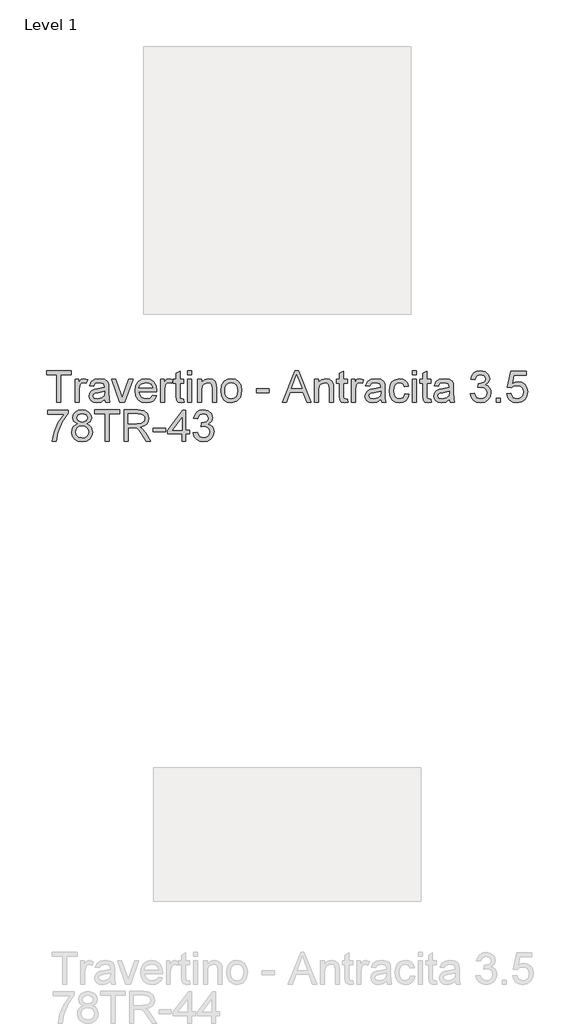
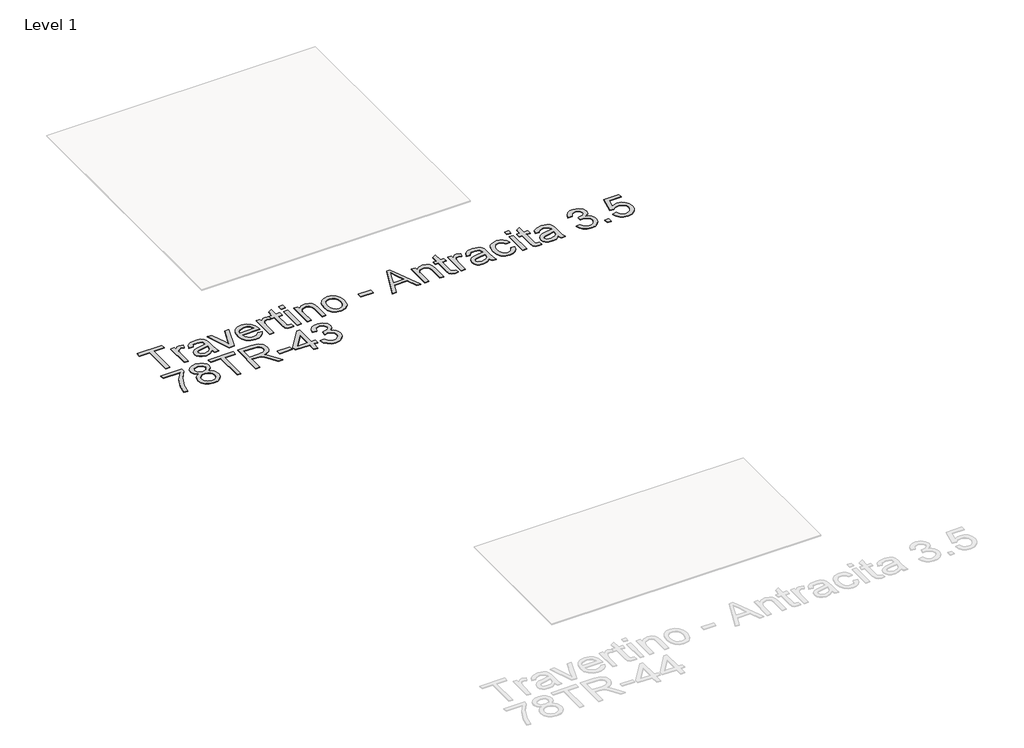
# One storey, part 12 of 80: 1 proxy.
"""IFC4 building model written with IfcOpenShell, lengths in millimetres."""

import ifcopenshell
import ifcopenshell.guid

model = None  # the IFC model being written
_history = None  # IfcOwnerHistory: only IFC2X3 demands one
_inside = {}  # id of a spatial element -> (the spatial element, [elements in it])
_under = {}  # id of a project, library or spatial element -> (it, [spatial elements below it])
_declared = {}  # id of a project -> (the project, [libraries it declares])
_typed = {}  # id of a type object -> (the type object, [elements of that type])
_made_of = {}  # id of a material, layer set ... -> (it, [elements and type objects made of it])


def new_model(schema):
    """Start an empty IFC model of exactly this schema.

    Asked for "IFC4X3", IfcOpenShell would pick the latest addendum, in which some entities
    have other attributes; the version numbers below select the first issue.
    IFC2X3 requires an IfcOwnerHistory on every rooted entity: one is made here for all.
    """
    global model, _history
    if schema == "IFC4X3":
        model = ifcopenshell.file(schema_version=(4, 3, 0, 0))
    else:
        model = ifcopenshell.file(schema=schema)
    _inside.clear()
    _under.clear()
    _declared.clear()
    _typed.clear()
    _made_of.clear()
    _history = None
    if model.schema == "IFC2X3":
        org = make("IfcOrganization", Name="unknown")
        user = make(
            "IfcPersonAndOrganization",
            ThePerson=make("IfcPerson", FamilyName="unknown"),
            TheOrganization=org,
        )
        app = make(
            "IfcApplication",
            ApplicationDeveloper=org,
            Version="unknown",
            ApplicationFullName="unknown",
            ApplicationIdentifier="unknown",
        )
        _history = make(
            "IfcOwnerHistory",
            OwningUser=user,
            OwningApplication=app,
            ChangeAction="ADDED",
            CreationDate=0,
        )
    return model


def make(cls, **values):
    """One entity of the class cls with the attributes given. An attribute that is None is left unset."""
    return model.create_entity(
        cls, **{name: value for name, value in values.items() if value is not None}
    )


def rooted(cls, **values):
    """An entity with a GlobalId (a new one), such as an element, a storey or a relation."""
    return make(cls, GlobalId=ifcopenshell.guid.new(), OwnerHistory=_history, **values)


def si_unit(unit_type, name, prefix=None):
    """IfcSIUnit, for example si_unit("LENGTHUNIT", "METRE", prefix="MILLI")."""
    return make("IfcSIUnit", UnitType=unit_type, Prefix=prefix, Name=name)


def assignment(units):
    """IfcUnitAssignment: the units of a project."""
    return None if units is None else make("IfcUnitAssignment", Units=units)


def point(xyz):
    """IfcCartesianPoint."""
    return None if xyz is None else make("IfcCartesianPoint", Coordinates=xyz)


def direction(xyz):
    """IfcDirection."""
    return None if xyz is None else make("IfcDirection", DirectionRatios=xyz)


def frame(location, z_axis=None, x_axis=None):
    """IfcAxis2Placement3D, a coordinate frame: its origin and axes. An axis left out is left unset."""
    return make(
        "IfcAxis2Placement3D",
        Location=point(location),
        Axis=direction(z_axis),
        RefDirection=direction(x_axis),
    )


def origin():
    """The frame at (0, 0, 0) with its axes left unset."""
    return frame((0.0, 0.0, 0.0))


def origin_with_axes():
    """The frame at (0, 0, 0) with the z axis (0, 0, 1) and the x axis (1, 0, 0) written out."""
    return frame((0.0, 0.0, 0.0), z_axis=(0.0, 0.0, 1.0), x_axis=(1.0, 0.0, 0.0))


def place(relative_to, where):
    """IfcLocalPlacement: puts the frame where relative to a parent placement (None: the world)."""
    return make(
        "IfcLocalPlacement", PlacementRelTo=relative_to, RelativePlacement=where
    )


def context(
    kind, dimensions, precision=None, world=None, true_north=None, identifier=None
):
    """IfcGeometricRepresentationContext, for example the 3D "Model" context."""
    return make(
        "IfcGeometricRepresentationContext",
        ContextIdentifier=identifier,
        ContextType=kind,
        CoordinateSpaceDimension=dimensions,
        Precision=precision,
        WorldCoordinateSystem=world,
        TrueNorth=true_north,
    )


def project(units=None, contexts=None):
    """IfcProject with its units and contexts."""
    return rooted(
        "IfcProject",
        Name="project",
        RepresentationContexts=contexts,
        UnitsInContext=assignment(units),
    )


def spatial(cls, under=None, at=None, **own):
    """A site, building, storey or space (cls), placed at a placement, below another one or the project."""
    s = rooted(cls, ObjectPlacement=at, **own)
    if under is not None:
        _under.setdefault(under.id(), (under, []))[1].append(s)
    return s


def polyline(points):
    """IfcPolyline through the points."""
    return make("IfcPolyline", Points=[point(p) for p in points])


def outline(outer, holes=None, kind="AREA"):
    """IfcArbitraryClosedProfileDef: a profile drawn as a closed curve; with holes, ...WithVoids."""
    if holes is None:
        return make("IfcArbitraryClosedProfileDef", ProfileType=kind, OuterCurve=outer)
    return make(
        "IfcArbitraryProfileDefWithVoids",
        ProfileType=kind,
        OuterCurve=outer,
        InnerCurves=holes,
    )


def extrude(swept, where, along, depth):
    """IfcExtrudedAreaSolid: the profile swept, set in the frame where, extruded along a direction by depth."""
    return make(
        "IfcExtrudedAreaSolid",
        SweptArea=swept,
        Position=where,
        ExtrudedDirection=direction(along),
        Depth=depth,
    )


def shape(context_of_items, identifier, shape_type, items):
    """IfcShapeRepresentation: the items that make up one representation, for example the "Body"."""
    return make(
        "IfcShapeRepresentation",
        ContextOfItems=context_of_items,
        RepresentationIdentifier=identifier,
        RepresentationType=shape_type,
        Items=items,
    )


def made_of(thing, what):
    """Note that an element or type object is made of a material, layer set ...; save() writes the relation."""
    if what is not None:
        _made_of.setdefault(what.id(), (what, []))[1].append(thing)
    return thing


def element(
    cls,
    number,
    at=None,
    inside=None,
    cuts=None,
    type_object=None,
    material=None,
    context=None,
    identifier="Body",
    shape_type=None,
    held_by="IfcProductDefinitionShape",
    body=None,
    shapes=None,
    **own,
):
    """One element of the class cls, such as IfcWall. Its Tag is "e" and its number.

    at: its placement. inside: the storey or other place that contains it. cuts: it is an
    opening in that element (IfcRelVoidsElement). A single representation is given by context,
    identifier, shape_type and body (its items); several are given by shapes. held_by: the class
    of the entity that holds the representations. save() writes the other relations.
    """
    e = rooted(cls, Tag="e%d" % number, ObjectPlacement=at, **own)
    if body is not None:
        shapes = [shape(context, identifier, shape_type, body)]
    if shapes is not None:
        e.Representation = make(held_by, Representations=shapes)
    if inside is not None:
        _inside.setdefault(inside.id(), (inside, []))[1].append(e)
    if cuts is not None:
        rooted(
            "IfcRelVoidsElement", RelatingBuildingElement=cuts, RelatedOpeningElement=e
        )
    if type_object is not None:
        _typed.setdefault(type_object.id(), (type_object, []))[1].append(e)
    return made_of(e, material)


def aggregate(whole, parts):
    """IfcRelAggregates: a whole, such as a stair, and the parts it consists of."""
    return rooted("IfcRelAggregates", RelatingObject=whole, RelatedObjects=parts)


def save(model, path):
    """Write the relations noted so far, then the file.

    IfcRelAggregates (storeys below a building ...), IfcRelContainedInSpatialStructure (elements
    in a storey), IfcRelDefinesByType, IfcRelAssociatesMaterial and IfcRelDeclares: one each for
    every whole, place, type object, material and project.
    """
    for whole, parts in _under.values():
        aggregate(whole, parts)
    for where, things in _inside.values():
        rooted(
            "IfcRelContainedInSpatialStructure",
            RelatedElements=things,
            RelatingStructure=where,
        )
    for kind, things in _typed.values():
        rooted("IfcRelDefinesByType", RelatedObjects=things, RelatingType=kind)
    for what, things in _made_of.values():
        rooted("IfcRelAssociatesMaterial", RelatedObjects=things, RelatingMaterial=what)
    for by, libraries in _declared.values():
        rooted("IfcRelDeclares", RelatingContext=by, RelatedDefinitions=libraries)
    model.write(path)


model = new_model("IFC4")

# Units and contexts
model_context = context("Model", 3, world=origin())
ifc_project = project(units=[si_unit("LENGTHUNIT", "METRE", prefix="MILLI")], contexts=[model_context])

# Site, building, storey
site = spatial("IfcSite", under=ifc_project)
building = spatial("IfcBuilding", under=site)
storey = spatial("IfcBuildingStorey", under=building, Name="Level 1", Elevation=0.0)

# Proxy
placement = place(None, origin())
element("IfcBuildingElementProxy", 1, Name="24\" Arial", ObjectType="24\" Arial", at=placement, inside=storey, context=model_context, shape_type="SweptSolid", body=[
    extrude(outline(polyline([(-27306.7684156, -10335.3931631), (-27306.7684156, -10232.0085477), (-27345.5376464, -10232.0085477), (-27345.5376464, -10217.239317), (-27253.2299541, -10217.239317), (-27253.2299541, -10232.0085477), (-27291.9991848, -10232.0085477), (-27291.9991848, -10335.3931631), (-27306.7684156, -10335.3931631)])), origin_with_axes(), (0.0, 0.0, 1.0), 2.0),
    extrude(outline(polyline([(-27238.4607233, -10335.3931631), (-27238.4607233, -10248.6239323), (-27225.5376464, -10248.6239323), (-27225.5376464, -10261.4604708), (-27216.3645694, -10249.6335477), (-27207.1338002, -10246.7777785), (-27192.3068771, -10251.3354708), (-27197.2395694, -10264.5758554), (-27207.6241848, -10261.5470093), (-27215.9751464, -10264.4604708), (-27221.2972617, -10272.5373939), (-27223.6914925, -10289.7873939), (-27223.6914925, -10335.3931631), (-27238.4607233, -10335.3931631)])), origin_with_axes(), (0.0, 0.0, 1.0), 2.0),
    extrude(outline(polyline([(-27127.6914925, -10324.31624), (-27142.0136079, -10334.3258554), (-27157.8357233, -10337.239317), (-27170.1782714, -10335.4869131), (-27179.2828387, -10330.2297016), (-27184.8970214, -10322.2465285), (-27186.7684156, -10312.31624), (-27183.9414925, -10300.6335477), (-27176.5136079, -10292.1527785), (-27166.1722617, -10287.3066247), (-27153.3934156, -10285.0854708), (-27127.778031, -10280.0085477), (-27127.6914925, -10276.7200862), (-27131.7588002, -10265.81624), (-27148.0857233, -10261.5470093), (-27163.028031, -10264.3883554), (-27170.153031, -10274.4700862), (-27184.9222617, -10272.6239323), (-27178.5328387, -10258.2008554), (-27165.6674541, -10249.7489323), (-27146.1818771, -10246.7777785), (-27128.2828387, -10249.4027785), (-27118.1722617, -10255.9941247), (-27113.6434156, -10266.0181631), (-27112.9222617, -10278.94124), (-27112.9222617, -10297.31624), (-27112.1722617, -10322.9748939), (-27109.2299541, -10335.3931631), (-27123.9991848, -10335.3931631), (-27127.6914925, -10324.31624)]), holes=[polyline([(-27127.6914925, -10294.7777785), (-27151.5184156, -10299.3066247), (-27164.2251464, -10301.7008554), (-27169.9799541, -10305.5950862), (-27171.9991848, -10311.2777785), (-27167.6001464, -10319.2681631), (-27154.6914925, -10322.4700862), (-27139.7491848, -10318.9364323), (-27130.1145694, -10310.3835477), (-27127.778031, -10298.9604708), (-27127.6914925, -10294.7777785)])]), origin_with_axes(), (0.0, 0.0, 1.0), 2.0),
    extrude(outline(polyline([(-27071.3261079, -10335.3931631), (-27101.8453387, -10248.6239323), (-27086.2107233, -10248.6239323), (-27067.7203387, -10300.6047016), (-27062.153031, -10318.0854708), (-27056.7011079, -10301.5854708), (-27038.0953387, -10248.6239323), (-27022.4607233, -10248.6239323), (-27052.6049541, -10335.3931631), (-27071.3261079, -10335.3931631)])), origin_with_axes(), (0.0, 0.0, 1.0), 2.0),
    extrude(outline(polyline([(-26948.7876464, -10309.5470093), (-26934.3068771, -10311.3931631), (-26939.5244252, -10322.3042208), (-26947.8501464, -10330.4604708), (-26959.0965406, -10335.5446054), (-26973.0761079, -10337.239317), (-26990.4054348, -10334.3150381), (-27003.7395694, -10325.5422016), (-27012.2419733, -10311.4905189), (-27015.0761079, -10292.7297016), (-27012.2131271, -10273.3378747), (-27003.6241848, -10258.8354708), (-26990.4703387, -10249.7922016), (-26973.9126464, -10246.7777785), (-26957.8705791, -10249.78499), (-26945.0520694, -10258.8066247), (-26936.6470214, -10273.2801823), (-26933.8453387, -10292.6431631), (-26933.9318771, -10296.6239323), (-27000.3068771, -10296.6239323), (-26997.7503867, -10307.6792208), (-26991.8116848, -10315.8066247), (-26983.2407714, -10320.8042208), (-26972.7876464, -10322.4700862), (-26958.3068771, -10319.3835477), (-26948.7876464, -10309.5470093)]), holes=[polyline([(-27000.3068771, -10281.8547016), (-26948.6145694, -10281.8547016), (-26954.528031, -10268.4700862), (-26963.1386079, -10263.2777785), (-26973.9703387, -10261.5470093), (-26992.1578387, -10267.0710477), (-26997.8801944, -10273.5289804), (-27000.3068771, -10281.8547016)])]), origin_with_axes(), (0.0, 0.0, 1.0), 2.0),
    extrude(outline(polyline([(-26919.0761079, -10335.3931631), (-26919.0761079, -10248.6239323), (-26906.153031, -10248.6239323), (-26906.153031, -10261.4604708), (-26896.9799541, -10249.6335477), (-26887.7491848, -10246.7777785), (-26872.9222617, -10251.3354708), (-26877.8549541, -10264.5758554), (-26888.2395694, -10261.5470093), (-26896.590531, -10264.4604708), (-26901.9126464, -10272.5373939), (-26904.3068771, -10289.7873939), (-26904.3068771, -10335.3931631), (-26919.0761079, -10335.3931631)])), origin_with_axes(), (0.0, 0.0, 1.0), 2.0),
    extrude(outline(polyline([(-26832.3068771, -10323.0758554), (-26830.4607233, -10335.8258554), (-26841.5088002, -10337.239317), (-26853.8838002, -10334.7873939), (-26860.0568771, -10328.3547016), (-26861.8453387, -10311.5950862), (-26861.8453387, -10263.3931631), (-26872.9222617, -10263.3931631), (-26872.9222617, -10248.6239323), (-26861.8453387, -10248.6239323), (-26861.8453387, -10227.5373939), (-26847.0761079, -10218.8547016), (-26847.0761079, -10248.6239323), (-26832.3068771, -10248.6239323), (-26832.3068771, -10263.3931631), (-26847.0761079, -10263.3931631), (-26847.0761079, -10311.1623939), (-26846.2972617, -10318.7777785), (-26843.7732233, -10321.4748939), (-26838.7395694, -10322.4700862), (-26832.3068771, -10323.0758554)])), origin_with_axes(), (0.0, 0.0, 1.0), 2.0),
    extrude(outline(polyline([(-26817.5376464, -10232.0085477), (-26817.5376464, -10217.239317), (-26802.7684156, -10217.239317), (-26802.7684156, -10232.0085477), (-26817.5376464, -10232.0085477)])), origin_with_axes(), (0.0, 0.0, 1.0), 2.0),
    extrude(outline(polyline([(-26817.5376464, -10335.3931631), (-26817.5376464, -10248.6239323), (-26802.7684156, -10248.6239323), (-26802.7684156, -10335.3931631), (-26817.5376464, -10335.3931631)])), origin_with_axes(), (0.0, 0.0, 1.0), 2.0),
    extrude(outline(polyline([(-26780.6145694, -10335.3931631), (-26780.6145694, -10248.6239323), (-26765.8453387, -10248.6239323), (-26765.8453387, -10260.739317), (-26754.5520694, -10250.2681631), (-26739.1338002, -10246.7777785), (-26725.1866848, -10249.5902785), (-26715.6674541, -10256.9748939), (-26711.2395694, -10267.8354708), (-26710.4607233, -10282.114317), (-26710.4607233, -10335.3931631), (-26725.2299541, -10335.3931631), (-26725.2299541, -10284.1047016), (-26726.9318771, -10271.0373939), (-26732.9463002, -10264.12874), (-26743.0857233, -10261.5470093), (-26759.1097617, -10267.3450862), (-26764.1614444, -10275.7465285), (-26765.8453387, -10289.3547016), (-26765.8453387, -10335.3931631), (-26780.6145694, -10335.3931631)])), origin_with_axes(), (0.0, 0.0, 1.0), 2.0),
    extrude(outline(polyline([(-26693.8453387, -10292.0085477), (-26690.6506271, -10271.0878747), (-26681.0664925, -10256.3835477), (-26669.2251464, -10249.1792208), (-26655.0472617, -10246.7777785), (-26639.5316367, -10249.7020573), (-26627.1386079, -10258.4748939), (-26619.0148098, -10272.4039804), (-26616.3068771, -10290.7970093), (-26621.0953387, -10317.0758554), (-26635.0424541, -10331.9460477), (-26655.0472617, -10337.239317), (-26670.7503867, -10334.3258554), (-26683.1289925, -10325.5854708), (-26691.1662521, -10311.364317), (-26693.8453387, -10292.0085477)]), holes=[polyline([(-26679.0761079, -10291.9797016), (-26677.3669733, -10305.3462881), (-26672.2395694, -10314.8691247), (-26664.5232233, -10320.5698458), (-26655.0472617, -10322.4700862), (-26645.6145694, -10320.5590285), (-26637.9126464, -10314.8258554), (-26632.7852425, -10305.176817), (-26631.0761079, -10291.5181631), (-26632.7960598, -10278.5409997), (-26637.9559156, -10269.1479708), (-26645.668656, -10263.4472497), (-26655.0472617, -10261.5470093), (-26664.5232233, -10263.4400381), (-26672.2395694, -10269.1191247), (-26677.3669733, -10278.6203266), (-26679.0761079, -10291.9797016)])]), origin_with_axes(), (0.0, 0.0, 1.0), 2.0),
    extrude(outline(polyline([(-26560.9222617, -10300.31624), (-26560.9222617, -10285.5470093), (-26514.7684156, -10285.5470093), (-26514.7684156, -10300.31624), (-26560.9222617, -10300.31624)])), origin_with_axes(), (0.0, 0.0, 1.0), 2.0),
    extrude(outline(polyline([(-26463.9126464, -10335.3931631), (-26416.7491848, -10217.239317), (-26404.1722617, -10217.239317), (-26357.0088002, -10335.3931631), (-26372.6145694, -10335.3931631), (-26386.1434156, -10298.4700862), (-26434.8068771, -10298.4700862), (-26448.3068771, -10335.3931631), (-26463.9126464, -10335.3931631)]), holes=[polyline([(-26429.3838002, -10283.7008554), (-26391.5376464, -10283.7008554), (-26402.1818771, -10254.6527785), (-26410.4607233, -10232.0085477), (-26417.8164925, -10252.114317), (-26429.3838002, -10283.7008554)])]), origin_with_axes(), (0.0, 0.0, 1.0), 2.0),
    extrude(outline(polyline([(-26343.0761079, -10335.3931631), (-26343.0761079, -10248.6239323), (-26328.3068771, -10248.6239323), (-26328.3068771, -10260.739317), (-26317.0136079, -10250.2681631), (-26301.5953387, -10246.7777785), (-26287.6482233, -10249.5902785), (-26278.1289925, -10256.9748939), (-26273.7011079, -10267.8354708), (-26272.9222617, -10282.114317), (-26272.9222617, -10335.3931631), (-26287.6914925, -10335.3931631), (-26287.6914925, -10284.1047016), (-26289.3934156, -10271.0373939), (-26295.4078387, -10264.12874), (-26305.5472617, -10261.5470093), (-26321.5713002, -10267.3450862), (-26326.6229829, -10275.7465285), (-26328.3068771, -10289.3547016), (-26328.3068771, -10335.3931631), (-26343.0761079, -10335.3931631)])), origin_with_axes(), (0.0, 0.0, 1.0), 2.0),
    extrude(outline(polyline([(-26221.2299541, -10323.0758554), (-26219.3838002, -10335.8258554), (-26230.4318771, -10337.239317), (-26242.8068771, -10334.7873939), (-26248.9799541, -10328.3547016), (-26250.7684156, -10311.5950862), (-26250.7684156, -10263.3931631), (-26261.8453387, -10263.3931631), (-26261.8453387, -10248.6239323), (-26250.7684156, -10248.6239323), (-26250.7684156, -10227.5373939), (-26235.9991848, -10218.8547016), (-26235.9991848, -10248.6239323), (-26221.2299541, -10248.6239323), (-26221.2299541, -10263.3931631), (-26235.9991848, -10263.3931631), (-26235.9991848, -10311.1623939), (-26235.2203387, -10318.7777785), (-26232.6963002, -10321.4748939), (-26227.6626464, -10322.4700862), (-26221.2299541, -10323.0758554)])), origin_with_axes(), (0.0, 0.0, 1.0), 2.0),
    extrude(outline(polyline([(-26206.4607233, -10335.3931631), (-26206.4607233, -10248.6239323), (-26193.5376464, -10248.6239323), (-26193.5376464, -10261.4604708), (-26184.3645694, -10249.6335477), (-26175.1338002, -10246.7777785), (-26160.3068771, -10251.3354708), (-26165.2395694, -10264.5758554), (-26175.6241848, -10261.5470093), (-26183.9751464, -10264.4604708), (-26189.2972617, -10272.5373939), (-26191.6914925, -10289.7873939), (-26191.6914925, -10335.3931631), (-26206.4607233, -10335.3931631)])), origin_with_axes(), (0.0, 0.0, 1.0), 2.0),
    extrude(outline(polyline([(-26095.6914925, -10324.31624), (-26110.0136079, -10334.3258554), (-26125.8357233, -10337.239317), (-26138.1782714, -10335.4869131), (-26147.2828387, -10330.2297016), (-26152.8970214, -10322.2465285), (-26154.7684156, -10312.31624), (-26151.9414925, -10300.6335477), (-26144.5136079, -10292.1527785), (-26134.1722617, -10287.3066247), (-26121.3934156, -10285.0854708), (-26095.778031, -10280.0085477), (-26095.6914925, -10276.7200862), (-26099.7588002, -10265.81624), (-26116.0857233, -10261.5470093), (-26131.028031, -10264.3883554), (-26138.153031, -10274.4700862), (-26152.9222617, -10272.6239323), (-26146.5328387, -10258.2008554), (-26133.6674541, -10249.7489323), (-26114.1818771, -10246.7777785), (-26096.2828387, -10249.4027785), (-26086.1722617, -10255.9941247), (-26081.6434156, -10266.0181631), (-26080.9222617, -10278.94124), (-26080.9222617, -10297.31624), (-26080.1722617, -10322.9748939), (-26077.2299541, -10335.3931631), (-26091.9991848, -10335.3931631), (-26095.6914925, -10324.31624)]), holes=[polyline([(-26095.6914925, -10294.7777785), (-26119.5184156, -10299.3066247), (-26132.2251464, -10301.7008554), (-26137.9799541, -10305.5950862), (-26139.9991848, -10311.2777785), (-26135.6001464, -10319.2681631), (-26122.6914925, -10322.4700862), (-26107.7491848, -10318.9364323), (-26098.1145694, -10310.3835477), (-26095.778031, -10298.9604708), (-26095.6914925, -10294.7777785)])]), origin_with_axes(), (0.0, 0.0, 1.0), 2.0),
    extrude(outline(polyline([(-26005.2299541, -10304.0085477), (-25990.4607233, -10305.8547016), (-25994.5785117, -10318.9905189), (-26002.3164925, -10328.9172016), (-26012.9463002, -10335.1587881), (-26025.7395694, -10337.239317), (-26041.449906, -10334.3366727), (-26053.7347617, -10325.62874), (-26061.6638483, -10311.4977304), (-26064.3068771, -10292.3258554), (-26059.7924541, -10267.7922016), (-26054.0953387, -10258.5938843), (-26046.0328387, -10252.0277785), (-26025.9414925, -10246.7777785), (-26013.4619252, -10248.5806631), (-26003.4847617, -10253.989317), (-25996.3273098, -10262.7152785), (-25992.3068771, -10274.4700862), (-26007.0761079, -10276.31624), (-26013.9270694, -10265.25374), (-26025.8261079, -10261.5470093), (-26035.3705791, -10263.3715285), (-26042.9463002, -10268.8450862), (-26047.8898098, -10278.2633554), (-26049.5376464, -10291.9220093), (-26047.9258675, -10305.7645573), (-26043.090531, -10315.2152785), (-26035.6518291, -10320.6563843), (-26026.2299541, -10322.4700862), (-26012.3116848, -10317.94124), (-26005.2299541, -10304.0085477)])), origin_with_axes(), (0.0, 0.0, 1.0), 2.0),
    extrude(outline(polyline([(-25977.5376464, -10232.0085477), (-25977.5376464, -10217.239317), (-25962.7684156, -10217.239317), (-25962.7684156, -10232.0085477), (-25977.5376464, -10232.0085477)])), origin_with_axes(), (0.0, 0.0, 1.0), 2.0),
    extrude(outline(polyline([(-25977.5376464, -10335.3931631), (-25977.5376464, -10248.6239323), (-25962.7684156, -10248.6239323), (-25962.7684156, -10335.3931631), (-25977.5376464, -10335.3931631)])), origin_with_axes(), (0.0, 0.0, 1.0), 2.0),
    extrude(outline(polyline([(-25909.2299541, -10323.0758554), (-25907.3838002, -10335.8258554), (-25918.4318771, -10337.239317), (-25930.8068771, -10334.7873939), (-25936.9799541, -10328.3547016), (-25938.7684156, -10311.5950862), (-25938.7684156, -10263.3931631), (-25949.8453387, -10263.3931631), (-25949.8453387, -10248.6239323), (-25938.7684156, -10248.6239323), (-25938.7684156, -10227.5373939), (-25923.9991848, -10218.8547016), (-25923.9991848, -10248.6239323), (-25909.2299541, -10248.6239323), (-25909.2299541, -10263.3931631), (-25923.9991848, -10263.3931631), (-25923.9991848, -10311.1623939), (-25923.2203387, -10318.7777785), (-25920.6963002, -10321.4748939), (-25915.6626464, -10322.4700862), (-25909.2299541, -10323.0758554)])), origin_with_axes(), (0.0, 0.0, 1.0), 2.0),
    extrude(outline(polyline([(-25839.0761079, -10324.31624), (-25853.3982233, -10334.3258554), (-25869.2203387, -10337.239317), (-25881.5628867, -10335.4869131), (-25890.6674541, -10330.2297016), (-25896.2816367, -10322.2465285), (-25898.153031, -10312.31624), (-25895.3261079, -10300.6335477), (-25887.8982233, -10292.1527785), (-25877.5568771, -10287.3066247), (-25864.778031, -10285.0854708), (-25839.1626464, -10280.0085477), (-25839.0761079, -10276.7200862), (-25843.1434156, -10265.81624), (-25859.4703387, -10261.5470093), (-25874.4126464, -10264.3883554), (-25881.5376464, -10274.4700862), (-25896.3068771, -10272.6239323), (-25889.9174541, -10258.2008554), (-25877.0520694, -10249.7489323), (-25857.5664925, -10246.7777785), (-25839.6674541, -10249.4027785), (-25829.5568771, -10255.9941247), (-25825.028031, -10266.0181631), (-25824.3068771, -10278.94124), (-25824.3068771, -10297.31624), (-25823.5568771, -10322.9748939), (-25820.6145694, -10335.3931631), (-25835.3838002, -10335.3931631), (-25839.0761079, -10324.31624)]), holes=[polyline([(-25839.0761079, -10294.7777785), (-25862.903031, -10299.3066247), (-25875.6097617, -10301.7008554), (-25881.3645694, -10305.5950862), (-25883.3838002, -10311.2777785), (-25878.9847617, -10319.2681631), (-25866.0761079, -10322.4700862), (-25851.1338002, -10318.9364323), (-25841.4991848, -10310.3835477), (-25839.1626464, -10298.9604708), (-25839.0761079, -10294.7777785)])]), origin_with_axes(), (0.0, 0.0, 1.0), 2.0),
    extrude(outline(polyline([(-25761.5376464, -10304.0085477), (-25746.7684156, -10302.1623939), (-25738.6193771, -10317.7104708), (-25723.3741848, -10322.4700862), (-25713.2491848, -10320.833067), (-25705.4318771, -10315.9220093), (-25700.434281, -10308.5950862), (-25698.7684156, -10299.7104708), (-25700.4198579, -10291.2765766), (-25705.3741848, -10284.4364323), (-25712.8741848, -10279.9039804), (-25722.1626464, -10278.3931631), (-25732.5184156, -10280.0085477), (-25730.8741848, -10265.239317), (-25728.5088002, -10265.4123939), (-25711.7491848, -10261.1720093), (-25706.1674541, -10255.7922016), (-25704.3068771, -10248.1335477), (-25709.7011079, -10236.5806631), (-25723.6049541, -10232.0085477), (-25737.6818771, -10236.6239323), (-25744.9222617, -10250.4700862), (-25759.6914925, -10248.6239323), (-25755.3429348, -10235.3619131), (-25747.6049541, -10225.4604708), (-25737.0184156, -10219.2946054), (-25724.1241848, -10217.239317), (-25706.3116848, -10221.2922016), (-25693.8501464, -10232.3691247), (-25689.5376464, -10247.2681631), (-25693.6338002, -10260.8835477), (-25705.7491848, -10270.6623939), (-25696.5039925, -10274.3979708), (-25689.653031, -10280.7585477), (-25685.4126464, -10289.3979708), (-25683.9991848, -10299.9700862), (-25686.8261079, -10314.364317), (-25695.3068771, -10326.3931631), (-25708.1073579, -10334.5277785), (-25723.8934156, -10337.239317), (-25738.1722617, -10334.9244131), (-25749.7972617, -10327.9797016), (-25757.8813964, -10317.3571054), (-25761.5376464, -10304.0085477)])), origin_with_axes(), (0.0, 0.0, 1.0), 2.0),
    extrude(outline(polyline([(-25663.6914925, -10335.3931631), (-25663.6914925, -10320.6239323), (-25648.9222617, -10320.6239323), (-25648.9222617, -10335.3931631), (-25663.6914925, -10335.3931631)])), origin_with_axes(), (0.0, 0.0, 1.0), 2.0),
    extrude(outline(polyline([(-25624.9222617, -10304.0085477), (-25610.153031, -10302.1623939), (-25602.7107233, -10317.37874), (-25587.278031, -10322.4700862), (-25576.6914925, -10320.6996535), (-25568.7588002, -10315.3883554), (-25563.8044733, -10307.1491727), (-25562.153031, -10296.5950862), (-25563.699906, -10286.6575862), (-25568.340531, -10279.0566247), (-25576.1109637, -10274.2321054), (-25587.0472617, -10272.6239323), (-25600.0136079, -10275.19124), (-25608.3068771, -10281.8547016), (-25623.0761079, -10280.0085477), (-25610.153031, -10219.0854708), (-25552.9222617, -10219.0854708), (-25552.9222617, -10233.8547016), (-25598.2107233, -10233.8547016), (-25604.528031, -10266.3931631), (-25593.9775502, -10259.989317), (-25582.9222617, -10257.8547016), (-25569.1229829, -10260.5013362), (-25557.6674541, -10268.44124), (-25549.9547137, -10280.5422016), (-25547.3838002, -10295.6720093), (-25549.6987041, -10310.44124), (-25556.6434156, -10323.0758554), (-25569.9414925, -10333.6984516), (-25587.3357233, -10337.239317), (-25601.8417329, -10334.9640766), (-25613.3982233, -10328.1383554), (-25621.3200983, -10317.5554227), (-25624.9222617, -10304.0085477)])), origin_with_axes(), (0.0, 0.0, 1.0), 2.0),
    extrude(outline(polyline([(-27341.8453387, -10379.7008554), (-27341.8453387, -10364.9316247), (-27264.3068771, -10364.9316247), (-27264.3068771, -10376.8739323), (-27286.3020694, -10408.6479708), (-27303.1338002, -10449.1335477), (-27308.6145694, -10481.239317), (-27323.3838002, -10481.239317), (-27317.5136079, -10447.9220093), (-27301.403031, -10410.2633554), (-27279.0761079, -10379.7008554), (-27341.8453387, -10379.7008554)])), origin_with_axes(), (0.0, 0.0, 1.0), 2.0),
    extrude(outline(polyline([(-27229.8645694, -10416.1623939), (-27243.3213002, -10406.989317), (-27247.6914925, -10392.7104708), (-27245.3116848, -10381.1647977), (-27238.1722617, -10371.6239323), (-27227.0737041, -10365.2200862), (-27212.8164925, -10363.0854708), (-27198.4727425, -10365.270567), (-27187.2299541, -10371.8258554), (-27179.9607233, -10381.5181631), (-27177.5376464, -10393.114317), (-27181.8501464, -10407.0325862), (-27194.9318771, -10416.1623939), (-27185.8417329, -10420.8462881), (-27179.2251464, -10427.7441247), (-27173.8453387, -10446.8547016), (-27176.5136079, -10460.9748939), (-27184.5184156, -10472.6431631), (-27196.8789925, -10480.4748939), (-27212.6145694, -10483.0854708), (-27228.3501464, -10480.4640766), (-27240.7107233, -10472.5998939), (-27248.715531, -10460.8198458), (-27251.3838002, -10446.4508554), (-27249.9847617, -10435.7200862), (-27245.7876464, -10426.8931631), (-27239.0088002, -10420.2729708), (-27229.8645694, -10416.1623939)]), holes=[polyline([(-27236.6145694, -10445.9316247), (-27234.1482233, -10457.051817), (-27225.4222617, -10465.3739323), (-27212.4991848, -10468.31624), (-27202.4463002, -10466.769365), (-27194.903031, -10462.12874), (-27190.1866848, -10455.1010958), (-27188.6145694, -10446.3931631), (-27190.2371656, -10437.5373939), (-27195.1049541, -10430.3547016), (-27202.8213002, -10425.5950862), (-27212.9895694, -10424.0085477), (-27222.9018291, -10425.5734516), (-27230.3693771, -10430.2681631), (-27235.0532714, -10437.3138362), (-27236.6145694, -10445.9316247)]), polyline([(-27232.9222617, -10393.1431631), (-27227.6866848, -10404.739317), (-27212.4414925, -10409.239317), (-27197.4991848, -10404.7681631), (-27192.3068771, -10393.8066247), (-27197.6722617, -10382.4556631), (-27212.6145694, -10377.8547016), (-27227.6001464, -10382.3547016), (-27232.9222617, -10393.1431631)])]), origin_with_axes(), (0.0, 0.0, 1.0), 2.0),
    extrude(outline(polyline([(-27125.8453387, -10481.239317), (-27125.8453387, -10377.8547016), (-27164.6145694, -10377.8547016), (-27164.6145694, -10363.0854708), (-27072.3068771, -10363.0854708), (-27072.3068771, -10377.8547016), (-27111.0761079, -10377.8547016), (-27111.0761079, -10481.239317), (-27125.8453387, -10481.239317)])), origin_with_axes(), (0.0, 0.0, 1.0), 2.0),
    extrude(outline(polyline([(-27055.6914925, -10481.239317), (-27055.6914925, -10363.0854708), (-27004.778031, -10363.0854708), (-26981.1386079, -10366.2729708), (-26968.215531, -10377.551817), (-26963.3838002, -10395.4220093), (-26965.3850021, -10407.0614323), (-26971.3886079, -10416.7104708), (-26981.574906, -10423.78499), (-26996.1241848, -10427.7008554), (-26987.7299541, -10434.0181631), (-26975.7588002, -10449.2200862), (-26956.0568771, -10481.239317), (-26973.2203387, -10481.239317), (-26988.5953387, -10456.7489323), (-26999.7011079, -10440.5373939), (-27007.5039925, -10432.87874), (-27014.528031, -10430.06624), (-27023.0953387, -10429.5470093), (-27040.9222617, -10429.5470093), (-27040.9222617, -10481.239317), (-27055.6914925, -10481.239317)]), holes=[polyline([(-27040.9222617, -10414.7777785), (-27007.8645694, -10414.7777785), (-26991.0039925, -10412.6864323), (-26981.4270694, -10405.9941247), (-26978.153031, -10395.9700862), (-26979.7143291, -10388.7657593), (-26984.3982233, -10382.9604708), (-26992.4571175, -10379.1311439), (-27004.1434156, -10377.8547016), (-27040.9222617, -10377.8547016), (-27040.9222617, -10414.7777785)])]), origin_with_axes(), (0.0, 0.0, 1.0), 2.0),
    extrude(outline(polyline([(-26946.7684156, -10446.1623939), (-26946.7684156, -10431.3931631), (-26900.6145694, -10431.3931631), (-26900.6145694, -10446.1623939), (-26946.7684156, -10446.1623939)])), origin_with_axes(), (0.0, 0.0, 1.0), 2.0),
    extrude(outline(polyline([(-26839.6914925, -10481.239317), (-26839.6914925, -10453.5470093), (-26893.2299541, -10453.5470093), (-26893.2299541, -10438.7777785), (-26835.9991848, -10364.9316247), (-26824.9222617, -10364.9316247), (-26824.9222617, -10438.7777785), (-26810.153031, -10438.7777785), (-26810.153031, -10453.5470093), (-26824.9222617, -10453.5470093), (-26824.9222617, -10481.239317), (-26839.6914925, -10481.239317)]), holes=[polyline([(-26839.6914925, -10438.7777785), (-26839.6914925, -10393.1431631), (-26875.0568771, -10438.7777785), (-26839.6914925, -10438.7777785)])]), origin_with_axes(), (0.0, 0.0, 1.0), 2.0),
    extrude(outline(polyline([(-26797.2299541, -10449.8547016), (-26782.4607233, -10448.0085477), (-26774.3116848, -10463.5566247), (-26759.0664925, -10468.31624), (-26748.9414925, -10466.6792208), (-26741.1241848, -10461.7681631), (-26736.1265887, -10454.44124), (-26734.4607233, -10445.5566247), (-26736.1121656, -10437.1227304), (-26741.0664925, -10430.2825862), (-26748.5664925, -10425.7501343), (-26757.8549541, -10424.239317), (-26768.2107233, -10425.8547016), (-26766.5664925, -10411.0854708), (-26764.2011079, -10411.2585477), (-26747.4414925, -10407.0181631), (-26741.8597617, -10401.6383554), (-26739.9991848, -10393.9797016), (-26745.3934156, -10382.426817), (-26759.2972617, -10377.8547016), (-26773.3741848, -10382.4700862), (-26780.6145694, -10396.31624), (-26795.3838002, -10394.4700862), (-26791.0352425, -10381.208067), (-26783.2972617, -10371.3066247), (-26772.7107233, -10365.1407593), (-26759.8164925, -10363.0854708), (-26742.0039925, -10367.1383554), (-26729.5424541, -10378.2152785), (-26725.2299541, -10393.114317), (-26729.3261079, -10406.7297016), (-26741.4414925, -10416.5085477), (-26732.1963002, -10420.2441247), (-26725.3453387, -10426.6047016), (-26721.1049541, -10435.2441247), (-26719.6914925, -10445.81624), (-26722.5184156, -10460.2104708), (-26730.9991848, -10472.239317), (-26743.7996656, -10480.3739323), (-26759.5857233, -10483.0854708), (-26773.8645694, -10480.770567), (-26785.4895694, -10473.8258554), (-26793.5737041, -10463.2032593), (-26797.2299541, -10449.8547016)])), origin_with_axes(), (0.0, 0.0, 1.0), 2.0),
])

save(model, "model.ifc")
